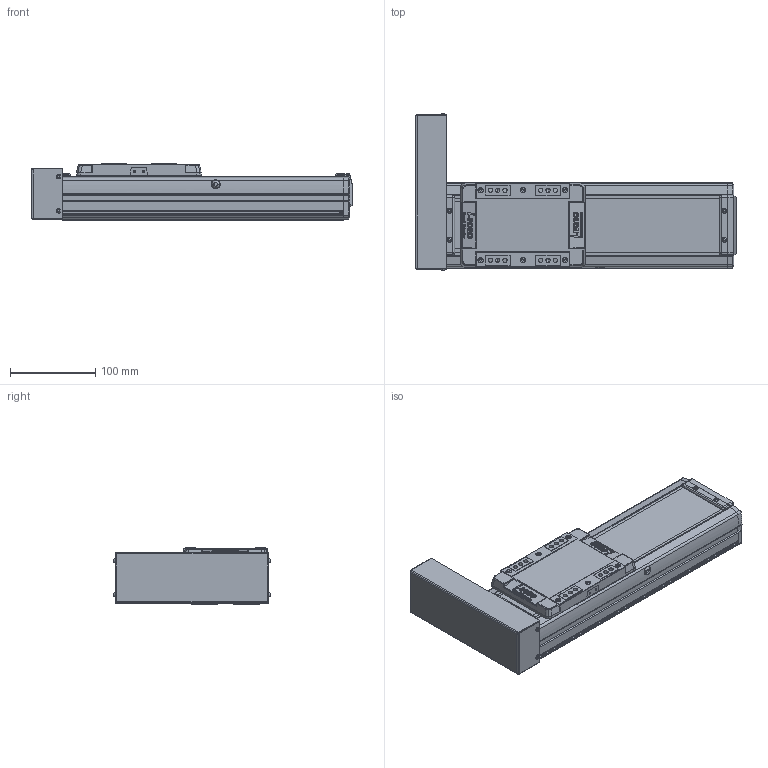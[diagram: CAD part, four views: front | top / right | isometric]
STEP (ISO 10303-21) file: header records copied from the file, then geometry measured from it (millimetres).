
FILE_DESCRIPTION(('STEP AP214'),'1');
FILE_NAME('Z:/Web/3D/SAN100/SAN100 양산용 (STEP)/SAN100ㅁㅁ-150PL.stp','2013-04-24T07:16:24',(' '),(' '),'Spatial InterOp 3D',' ',' ');
FILE_SCHEMA(('automotive_design'));
Length unit declared in the file: millimetre
Products named in the file (29): BTCV-SAN65; BHCS M3 X 6L; SUS COVER; SFX-SAN100; RRCV-SAN100; 스크루 : Round - M4.0 x 10.0; M3.0 x 6.0; 스크루 : Round - M3.0 x 6.0; FRBL-SAN100; SLBL-SAN100; SLCV-SAN100; 스크루 : Countersunk - M3.0 x 6.0; BASE; 스크루 : Round - M5.0 x 6.0
Bounding box: 376.5 x 184.13 x 66 mm (x, y, z)
Volume: 1424078.4 mm3; surface area: 328558.8 mm2
Topology: 29 solids, 30 shells, 1778 faces, 4638 edges, 2987 vertices
Faces by surface type: plane 901, cylinder 653, cone 150, sphere 40, torus 18, bspline 16
Entity records: 69998 total; most frequent: CARTESIAN_POINT 10506, DIRECTION 9761, ORIENTED_EDGE 9128, EDGE_CURVE 4564, AXIS2_PLACEMENT_3D 3471, VERTEX_POINT 2987, LINE 2819, VECTOR 2819
